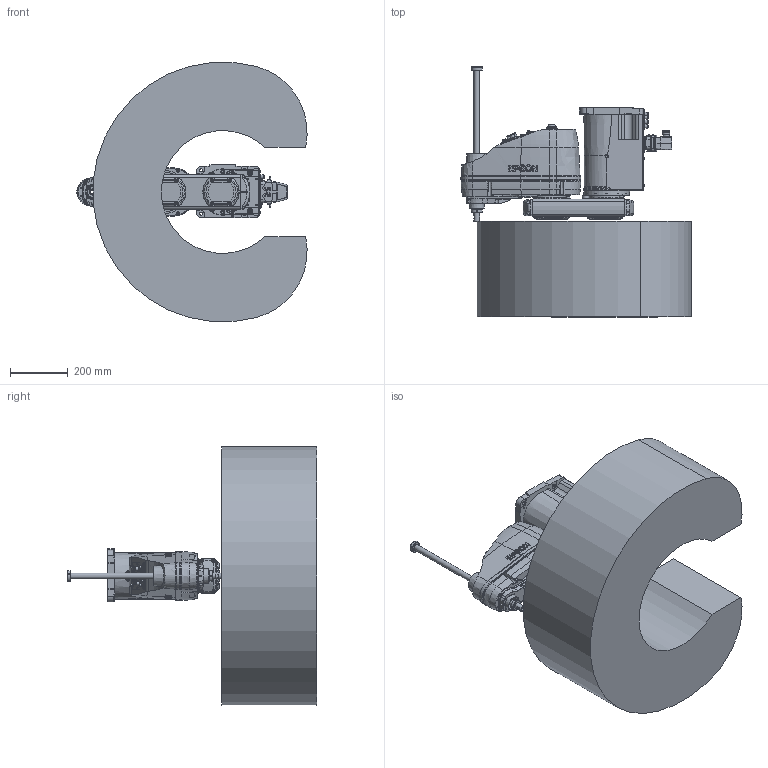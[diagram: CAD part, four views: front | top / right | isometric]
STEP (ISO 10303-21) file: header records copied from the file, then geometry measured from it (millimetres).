
FILE_DESCRIPTION( ( 'STEP AP214' ), '1' );
FILE_NAME( 'C:/Users/9607552/Desktop/GX8-B453SR_langle.stp', '2023-07-07T01:45:12', ( '' ), ( '' ), ' ', 'PARTsolutions', ' ' );
FILE_SCHEMA( ( 'AUTOMOTIVE_DESIGN { 1 0 10303 214 1 1 1 1 }' ) );
Length unit declared in the file: millimetre
Products named in the file (9): GX8-B453SRA-W; _B452SR_BASE; _B452SR; _B452SR_1; _B452SR_2; _B452S_J2; _B453SZA; _Angle-B; _GX8-14-1-B_WS
Assembly tree (10 placements, depth 2):
  GX8-B453SRA-W
    _B452SR_BASE
    _B452SR
    _B452SR_1  x2
    _B452SR_2  x2
    _B452S_J2
    _B453SZA
    _Angle-B
    _GX8-14-1-B_WS
Bounding box: 797.24 x 865 x 896.58 mm (x, y, z)
Volume: 147376060.8 mm3; surface area: 3032668.7 mm2
Topology: 10 solids, 10 shells, 2862 faces, 6968 edges, 4547 vertices
Faces by surface type: plane 1441, cylinder 926, cone 333, torus 119, bspline 37, sphere 6
Full cylindrical faces by diameter (mm): 1 x48, 1.18 x55, 2.261 x4, 2.459 x12, 3 x32, 3.242 x18, 3.3 x5, 3.9 x4, 4 x4, 4.2 x8, 4.5 x4, 4.8 x4, 5.34 x4, 5.5 x17, 6 x1, 6.2 x4, 6.647 x4, 6.8 x2, 7 x48, 8 x5, 8.5 x6, 9 x24, 10 x18, 11 x4, 11.2 x7, 11.5 x1, 12 x5, 12.25 x1, 13 x3, 13.2 x12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
Entity records: 102022 total; most frequent: CARTESIAN_POINT 19302, DIRECTION 12608, ORIENTED_EDGE 11602, EDGE_CURVE 5801, AXIS2_PLACEMENT_3D 4846, VERTEX_POINT 4186, EDGE_LOOP 3798, FACE_OUTER_BOUND 3156
